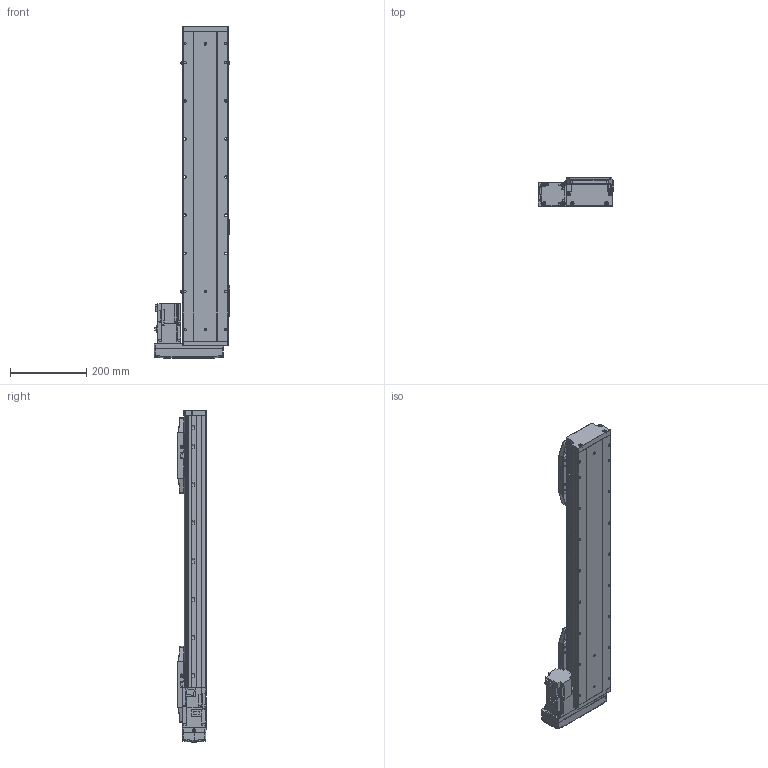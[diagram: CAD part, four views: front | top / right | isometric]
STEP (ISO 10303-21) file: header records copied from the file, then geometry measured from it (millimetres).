
FILE_DESCRIPTION (( 'STEP AP203' ), '1' );
FILE_NAME ('175.STEP', '2022-08-03T10:21:10', ( '' ), ( '' ), 'SwSTEP 2.0', 'SolidWorks 2016', '' );
FILE_SCHEMA (( 'CONFIG_CONTROL_DESIGN' ));
Length unit declared in the file: millimetre
Products named in the file (10): CTH12S-BL-HZ; CTH12S-BL-01; CTH12S-BL-04; 175; CTH12S-BL-05; CTH12-BL-02; CTH12S-BL-菁釱; CTH12S-BC-07; CTH12-BC-06; CTH12S-BL-T40
Assembly tree (15 placements, depth 2):
  175
    CTH12S-BL-菁釱
    CTH12S-BL-01
    CTH12S-BL-04
    CTH12S-BL-05  x2
    CTH12S-BL-HZ  x2
    CTH12S-BL-T40
    CTH12-BL-02
    CTH12S-BC-07  x3
    CTH12-BC-06  x3
Bounding box: 199.2 x 76 x 870.5 mm (x, y, z)
Volume: 6016660.7 mm3; surface area: 695709.1 mm2
Topology: 36 solids, 36 shells, 2522 faces, 6543 edges, 4144 vertices
Faces by surface type: plane 1319, cylinder 718, cone 294, bspline 180, torus 7, sphere 4
Entity records: 60116 total; most frequent: CARTESIAN_POINT 17178, ORIENTED_EDGE 8820, DIRECTION 8399, EDGE_CURVE 4410, VERTEX_POINT 2842, AXIS2_PLACEMENT_3D 2810, LINE 2779, VECTOR 2779
